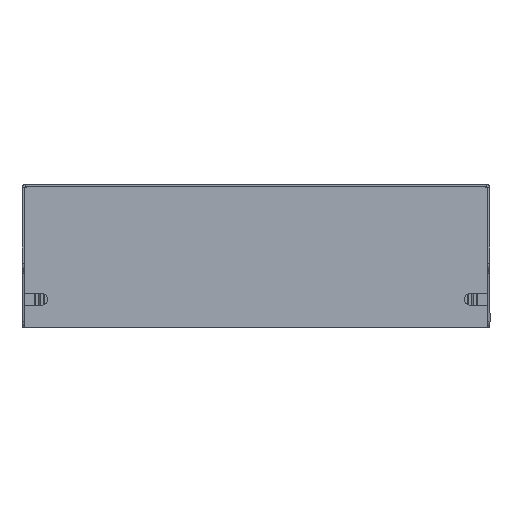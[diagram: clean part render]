
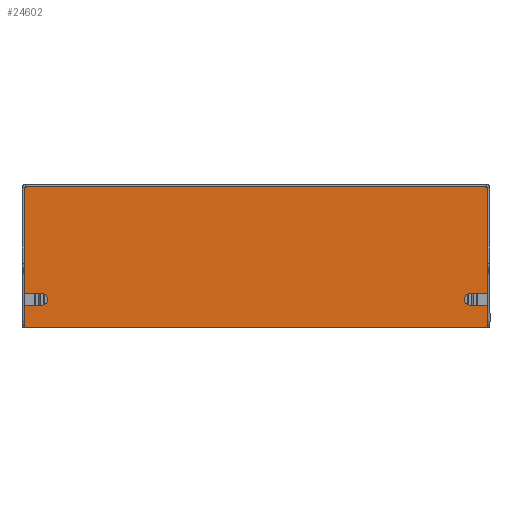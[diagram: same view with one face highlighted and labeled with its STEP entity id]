
A CAD part, top view. The second image highlights one B-rep face of the part: STEP entity #24602.
In plain terms, the highlighted planar face has unit normal (0, 0, 1).
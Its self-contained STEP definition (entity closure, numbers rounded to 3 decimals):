
#1111 = DIRECTION ( 'NONE',  ( 0., 1., 0. ) ) ;
#2103 = CARTESIAN_POINT ( 'NONE',  ( 81., 14.35, 0. ) ) ;
#4530 = CIRCLE ( 'NONE', #6370, 1. ) ;
#4759 = PLANE ( 'NONE',  #11326 ) ;
#4772 = ORIENTED_EDGE ( 'NONE', *, *, #54046, .T. ) ;
#4840 = ORIENTED_EDGE ( 'NONE', *, *, #21339, .F. ) ;
#4980 = VERTEX_POINT ( 'NONE', #31772 ) ;
#5189 = VECTOR ( 'NONE', #22680, 1000. ) ;
#5213 = VERTEX_POINT ( 'NONE', #37471 ) ;
#5407 = VECTOR ( 'NONE', #1111, 1000. ) ;
#5427 = VERTEX_POINT ( 'NONE', #22206 ) ;
#5621 = DIRECTION ( 'NONE',  ( 0., 1., 0. ) ) ;
#6370 = AXIS2_PLACEMENT_3D ( 'NONE', #19639, #48959, #23852 ) ;
#7464 = DIRECTION ( 'NONE',  ( 0., 0., 1. ) ) ;
#7689 = AXIS2_PLACEMENT_3D ( 'NONE', #33954, #8828, #38177 ) ;
#7708 = EDGE_CURVE ( 'NONE', #15831, #5213, #27786, .T. ) ;
#7901 = DIRECTION ( 'NONE',  ( -1., 0., 0. ) ) ;
#8162 = EDGE_CURVE ( 'NONE', #33277, #18680, #12673, .T. ) ;
#8828 = DIRECTION ( 'NONE',  ( 0., 0., 1. ) ) ;
#8930 = DIRECTION ( 'NONE',  ( 1., 0., 0. ) ) ;
#9329 = DIRECTION ( 'NONE',  ( -1., 0., 0. ) ) ;
#9591 = CARTESIAN_POINT ( 'NONE',  ( 87.5, 1.6, 0. ) ) ;
#10606 = ORIENTED_EDGE ( 'NONE', *, *, #12489, .F. ) ;
#11303 = CARTESIAN_POINT ( 'NONE',  ( -87.5, 53.6, 0. ) ) ;
#11326 = AXIS2_PLACEMENT_3D ( 'NONE', #50711, #34050, #8930 ) ;
#11617 = ORIENTED_EDGE ( 'NONE', *, *, #23730, .T. ) ;
#11816 = VERTEX_POINT ( 'NONE', #21055 ) ;
#12293 = CARTESIAN_POINT ( 'NONE',  ( -97.038, 9.85, 0. ) ) ;
#12489 = EDGE_CURVE ( 'NONE', #5427, #45095, #32523, .T. ) ;
#12673 = LINE ( 'NONE', #49809, #34970 ) ;
#13047 = FACE_OUTER_BOUND ( 'NONE', #39774, .T. ) ;
#14403 = VECTOR ( 'NONE', #7901, 1000. ) ;
#14923 = EDGE_CURVE ( 'NONE', #4980, #30498, #31578, .T. ) ;
#15165 = LINE ( 'NONE', #23548, #36132 ) ;
#15329 = CARTESIAN_POINT ( 'NONE',  ( -81., 9.85, 0. ) ) ;
#15443 = CARTESIAN_POINT ( 'NONE',  ( -81., 12.1, 0. ) ) ;
#15735 = CARTESIAN_POINT ( 'NONE',  ( -81., 12.1, 0. ) ) ;
#15763 = VECTOR ( 'NONE', #44264, 1000. ) ;
#15831 = VERTEX_POINT ( 'NONE', #2103 ) ;
#16190 = ORIENTED_EDGE ( 'NONE', *, *, #8162, .F. ) ;
#16311 = LINE ( 'NONE', #39413, #5189 ) ;
#16364 = VERTEX_POINT ( 'NONE', #18704 ) ;
#16430 = VECTOR ( 'NONE', #52311, 1000. ) ;
#16992 = CARTESIAN_POINT ( 'NONE',  ( -81., 14.35, 0. ) ) ;
#17757 = CARTESIAN_POINT ( 'NONE',  ( 97.038, 14.35, 0. ) ) ;
#17962 = CARTESIAN_POINT ( 'NONE',  ( 87.5, 18.254, 0. ) ) ;
#18006 = VERTEX_POINT ( 'NONE', #27935 ) ;
#18680 = VERTEX_POINT ( 'NONE', #37240 ) ;
#18704 = CARTESIAN_POINT ( 'NONE',  ( -86.5, 54.6, 0. ) ) ;
#19622 = DIRECTION ( 'NONE',  ( -1., 0., 0. ) ) ;
#19639 = CARTESIAN_POINT ( 'NONE',  ( -86.5, 53.6, 0. ) ) ;
#19748 = CIRCLE ( 'NONE', #34755, 2.25 ) ;
#19920 = DIRECTION ( 'NONE',  ( -1., 0., 0. ) ) ;
#20316 = ORIENTED_EDGE ( 'NONE', *, *, #14923, .F. ) ;
#21055 = CARTESIAN_POINT ( 'NONE',  ( -78.75, 12.1, 0. ) ) ;
#21339 = EDGE_CURVE ( 'NONE', #48309, #5427, #15165, .T. ) ;
#21453 = ORIENTED_EDGE ( 'NONE', *, *, #37350, .F. ) ;
#22206 = CARTESIAN_POINT ( 'NONE',  ( -87.5, 14.35, 0. ) ) ;
#22680 = DIRECTION ( 'NONE',  ( 0., 1., 0. ) ) ;
#23302 = CARTESIAN_POINT ( 'NONE',  ( 87.5, 18.254, 0. ) ) ;
#23548 = CARTESIAN_POINT ( 'NONE',  ( -97.038, 14.35, 0. ) ) ;
#23730 = EDGE_CURVE ( 'NONE', #33277, #18006, #38088, .T. ) ;
#23852 = DIRECTION ( 'NONE',  ( 1., 0., 0. ) ) ;
#24178 = LINE ( 'NONE', #37263, #14403 ) ;
#24602 = ADVANCED_FACE ( 'NONE', ( #13047 ), #4759, .T. ) ;
#25025 = LINE ( 'NONE', #17962, #5407 ) ;
#25283 = VECTOR ( 'NONE', #9329, 1000. ) ;
#27786 = CIRCLE ( 'NONE', #7689, 2.25 ) ;
#27935 = CARTESIAN_POINT ( 'NONE',  ( 87.5, 9.85, 0. ) ) ;
#28418 = ORIENTED_EDGE ( 'NONE', *, *, #47535, .F. ) ;
#28929 = DIRECTION ( 'NONE',  ( -1., 0., 0. ) ) ;
#29155 = VERTEX_POINT ( 'NONE', #29215 ) ;
#29215 = CARTESIAN_POINT ( 'NONE',  ( 86.5, 54.6, 0. ) ) ;
#30498 = VERTEX_POINT ( 'NONE', #15329 ) ;
#31203 = VECTOR ( 'NONE', #5621, 1000. ) ;
#31436 = CARTESIAN_POINT ( 'NONE',  ( 97.038, 9.85, 0. ) ) ;
#31578 = LINE ( 'NONE', #12293, #40141 ) ;
#31772 = CARTESIAN_POINT ( 'NONE',  ( -87.5, 9.85, 0. ) ) ;
#31989 = DIRECTION ( 'NONE',  ( -1., 0., 0. ) ) ;
#32523 = LINE ( 'NONE', #51590, #31203 ) ;
#32588 = CARTESIAN_POINT ( 'NONE',  ( 86.5, 53.6, 0. ) ) ;
#32984 = VERTEX_POINT ( 'NONE', #36569 ) ;
#33277 = VERTEX_POINT ( 'NONE', #9591 ) ;
#33954 = CARTESIAN_POINT ( 'NONE',  ( 81., 12.1, 0. ) ) ;
#34050 = DIRECTION ( 'NONE',  ( 0., 0., 1. ) ) ;
#34130 = CIRCLE ( 'NONE', #52309, 2.25 ) ;
#34283 = ORIENTED_EDGE ( 'NONE', *, *, #52597, .T. ) ;
#34755 = AXIS2_PLACEMENT_3D ( 'NONE', #15443, #44780, #19622 ) ;
#34970 = VECTOR ( 'NONE', #28929, 1000. ) ;
#35807 = EDGE_CURVE ( 'NONE', #18680, #4980, #16311, .T. ) ;
#36132 = VECTOR ( 'NONE', #31989, 1000. ) ;
#36449 = LINE ( 'NONE', #17757, #25283 ) ;
#36569 = CARTESIAN_POINT ( 'NONE',  ( 87.5, 14.35, 0. ) ) ;
#36813 = DIRECTION ( 'NONE',  ( 1., 0., 0. ) ) ;
#37240 = CARTESIAN_POINT ( 'NONE',  ( -87.5, 1.6, 0. ) ) ;
#37263 = CARTESIAN_POINT ( 'NONE',  ( 87.5, 54.6, 0. ) ) ;
#37350 = EDGE_CURVE ( 'NONE', #32984, #15831, #36449, .T. ) ;
#37471 = CARTESIAN_POINT ( 'NONE',  ( 81., 9.85, 0. ) ) ;
#38088 = LINE ( 'NONE', #23302, #15763 ) ;
#38177 = DIRECTION ( 'NONE',  ( 1., 0., 0. ) ) ;
#38739 = ORIENTED_EDGE ( 'NONE', *, *, #35807, .F. ) ;
#39413 = CARTESIAN_POINT ( 'NONE',  ( -87.5, 18.254, 0. ) ) ;
#39774 = EDGE_LOOP ( 'NONE', ( #4772, #41849, #10606, #4840, #28418, #54369, #20316, #38739, #16190, #11617, #46962, #40495, #21453, #34283, #50875 ) ) ;
#40141 = VECTOR ( 'NONE', #50020, 1000. ) ;
#40495 = ORIENTED_EDGE ( 'NONE', *, *, #7708, .F. ) ;
#40559 = EDGE_CURVE ( 'NONE', #16364, #45095, #4530, .T. ) ;
#41396 = LINE ( 'NONE', #31436, #16430 ) ;
#41849 = ORIENTED_EDGE ( 'NONE', *, *, #40559, .T. ) ;
#42779 = CIRCLE ( 'NONE', #44801, 1. ) ;
#44264 = DIRECTION ( 'NONE',  ( 0., 1., 0. ) ) ;
#44780 = DIRECTION ( 'NONE',  ( 0., 0., 1. ) ) ;
#44801 = AXIS2_PLACEMENT_3D ( 'NONE', #32588, #7464, #36813 ) ;
#45065 = DIRECTION ( 'NONE',  ( 0., 0., 1. ) ) ;
#45091 = VERTEX_POINT ( 'NONE', #49039 ) ;
#45095 = VERTEX_POINT ( 'NONE', #11303 ) ;
#46962 = ORIENTED_EDGE ( 'NONE', *, *, #53339, .F. ) ;
#47535 = EDGE_CURVE ( 'NONE', #11816, #48309, #19748, .T. ) ;
#48143 = EDGE_CURVE ( 'NONE', #30498, #11816, #34130, .T. ) ;
#48309 = VERTEX_POINT ( 'NONE', #16992 ) ;
#48959 = DIRECTION ( 'NONE',  ( 0., 0., 1. ) ) ;
#49039 = CARTESIAN_POINT ( 'NONE',  ( 87.5, 53.6, 0. ) ) ;
#49809 = CARTESIAN_POINT ( 'NONE',  ( 87.5, 1.6, 0. ) ) ;
#50020 = DIRECTION ( 'NONE',  ( 1., 0., 0. ) ) ;
#50711 = CARTESIAN_POINT ( 'NONE',  ( 87.5, 18.254, 0. ) ) ;
#50875 = ORIENTED_EDGE ( 'NONE', *, *, #52879, .T. ) ;
#51590 = CARTESIAN_POINT ( 'NONE',  ( -87.5, 18.254, 0. ) ) ;
#52309 = AXIS2_PLACEMENT_3D ( 'NONE', #15735, #45065, #19920 ) ;
#52311 = DIRECTION ( 'NONE',  ( 1., 0., 0. ) ) ;
#52597 = EDGE_CURVE ( 'NONE', #32984, #45091, #25025, .T. ) ;
#52879 = EDGE_CURVE ( 'NONE', #45091, #29155, #42779, .T. ) ;
#53339 = EDGE_CURVE ( 'NONE', #5213, #18006, #41396, .T. ) ;
#54046 = EDGE_CURVE ( 'NONE', #29155, #16364, #24178, .T. ) ;
#54369 = ORIENTED_EDGE ( 'NONE', *, *, #48143, .F. ) ;
